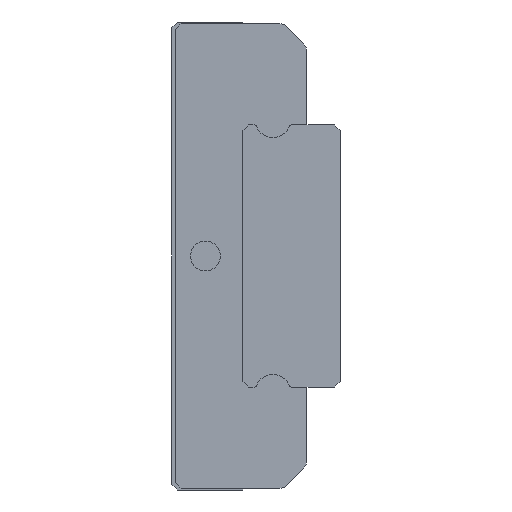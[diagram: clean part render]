
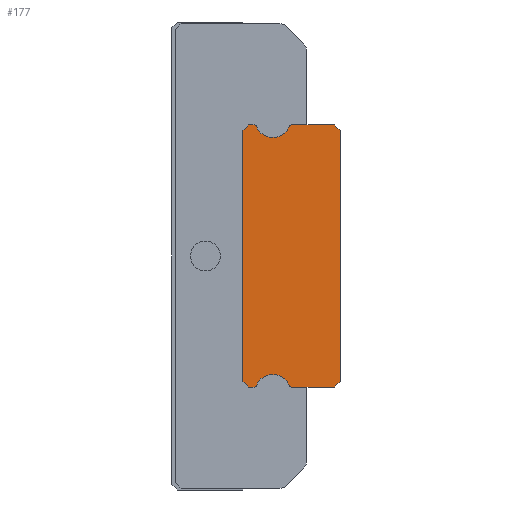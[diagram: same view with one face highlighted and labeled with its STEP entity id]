
A CAD part, left-side view. The second image highlights one B-rep face of the part: STEP entity #177.
In plain terms, the highlighted planar face has unit normal (-1, 0, 0).
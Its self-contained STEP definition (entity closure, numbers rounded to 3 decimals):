
#177 = ADVANCED_FACE( '', ( #402 ), #403, .F. );
#402 = FACE_OUTER_BOUND( '', #727, .T. );
#403 = PLANE( '', #728 );
#727 = EDGE_LOOP( '', ( #1343, #1344, #1345, #1346, #1347, #1348, #1349, #1350, #1351, #1352, #1353, #1354, #1355, #1356, #1357, #1358, #1359, #1360 ) );
#728 = AXIS2_PLACEMENT_3D( '', #1361, #1362, #1363 );
#1343 = ORIENTED_EDGE( '', *, *, #2275, .F. );
#1344 = ORIENTED_EDGE( '', *, *, #2224, .F. );
#1345 = ORIENTED_EDGE( '', *, *, #2228, .F. );
#1346 = ORIENTED_EDGE( '', *, *, #2231, .F. );
#1347 = ORIENTED_EDGE( '', *, *, #2234, .F. );
#1348 = ORIENTED_EDGE( '', *, *, #2237, .F. );
#1349 = ORIENTED_EDGE( '', *, *, #2240, .F. );
#1350 = ORIENTED_EDGE( '', *, *, #2243, .F. );
#1351 = ORIENTED_EDGE( '', *, *, #2246, .F. );
#1352 = ORIENTED_EDGE( '', *, *, #2249, .F. );
#1353 = ORIENTED_EDGE( '', *, *, #2252, .F. );
#1354 = ORIENTED_EDGE( '', *, *, #2255, .F. );
#1355 = ORIENTED_EDGE( '', *, *, #2258, .F. );
#1356 = ORIENTED_EDGE( '', *, *, #2261, .F. );
#1357 = ORIENTED_EDGE( '', *, *, #2264, .F. );
#1358 = ORIENTED_EDGE( '', *, *, #2267, .F. );
#1359 = ORIENTED_EDGE( '', *, *, #2270, .F. );
#1360 = ORIENTED_EDGE( '', *, *, #2273, .F. );
#1361 = CARTESIAN_POINT( '', ( -10., 0., 0. ) );
#1362 = DIRECTION( '', ( 1., 0., 0. ) );
#1363 = DIRECTION( '', ( 0., 0., -1. ) );
#2224 = EDGE_CURVE( '', #2665, #2667, #2668, .T. );
#2228 = EDGE_CURVE( '', #2672, #2665, #2674, .T. );
#2231 = EDGE_CURVE( '', #2677, #2672, #2679, .T. );
#2234 = EDGE_CURVE( '', #2682, #2677, #2684, .T. );
#2237 = EDGE_CURVE( '', #2687, #2682, #2689, .T. );
#2240 = EDGE_CURVE( '', #2692, #2687, #2694, .T. );
#2243 = EDGE_CURVE( '', #2697, #2692, #2699, .T. );
#2246 = EDGE_CURVE( '', #2702, #2697, #2704, .T. );
#2249 = EDGE_CURVE( '', #2707, #2702, #2709, .T. );
#2252 = EDGE_CURVE( '', #2712, #2707, #2714, .T. );
#2255 = EDGE_CURVE( '', #2717, #2712, #2719, .T. );
#2258 = EDGE_CURVE( '', #2722, #2717, #2724, .T. );
#2261 = EDGE_CURVE( '', #2727, #2722, #2729, .T. );
#2264 = EDGE_CURVE( '', #2732, #2727, #2734, .T. );
#2267 = EDGE_CURVE( '', #2737, #2732, #2739, .T. );
#2270 = EDGE_CURVE( '', #2742, #2737, #2744, .T. );
#2273 = EDGE_CURVE( '', #2747, #2742, #2749, .T. );
#2275 = EDGE_CURVE( '', #2667, #2747, #2751, .T. );
#2665 = VERTEX_POINT( '', #3330 );
#2667 = VERTEX_POINT( '', #3333 );
#2668 = LINE( '', #3334, #3335 );
#2672 = VERTEX_POINT( '', #3340 );
#2674 = CIRCLE( '', #3343, 0.15 );
#2677 = VERTEX_POINT( '', #3346 );
#2679 = CIRCLE( '', #3349, 0.87 );
#2682 = VERTEX_POINT( '', #3352 );
#2684 = CIRCLE( '', #3355, 0.87 );
#2687 = VERTEX_POINT( '', #3358 );
#2689 = CIRCLE( '', #3361, 0.15 );
#2692 = VERTEX_POINT( '', #3365 );
#2694 = LINE( '', #3368, #3369 );
#2697 = VERTEX_POINT( '', #3373 );
#2699 = LINE( '', #3376, #3377 );
#2702 = VERTEX_POINT( '', #3381 );
#2704 = LINE( '', #3384, #3385 );
#2707 = VERTEX_POINT( '', #3389 );
#2709 = LINE( '', #3392, #3393 );
#2712 = VERTEX_POINT( '', #3397 );
#2714 = LINE( '', #3400, #3401 );
#2717 = VERTEX_POINT( '', #3404 );
#2719 = CIRCLE( '', #3407, 0.15 );
#2722 = VERTEX_POINT( '', #3410 );
#2724 = CIRCLE( '', #3413, 0.87 );
#2727 = VERTEX_POINT( '', #3416 );
#2729 = CIRCLE( '', #3419, 0.87 );
#2732 = VERTEX_POINT( '', #3422 );
#2734 = CIRCLE( '', #3425, 0.15 );
#2737 = VERTEX_POINT( '', #3429 );
#2739 = LINE( '', #3432, #3433 );
#2742 = VERTEX_POINT( '', #3437 );
#2744 = LINE( '', #3440, #3441 );
#2747 = VERTEX_POINT( '', #3445 );
#2749 = LINE( '', #3448, #3449 );
#2751 = LINE( '', #3452, #3453 );
#3330 = CARTESIAN_POINT( '', ( -10., 2.596, 7. ) );
#3333 = CARTESIAN_POINT( '', ( -10., 0.3, 7. ) );
#3334 = CARTESIAN_POINT( '', ( -10., 2.596, 7. ) );
#3335 = VECTOR( '', #4240, 1. );
#3340 = CARTESIAN_POINT( '', ( -10., 2.736, 6.903 ) );
#3343 = AXIS2_PLACEMENT_3D( '', #4246, #4247, #4248 );
#3346 = CARTESIAN_POINT( '', ( -10., 3.6, 6.341 ) );
#3349 = AXIS2_PLACEMENT_3D( '', #4253, #4254, #4255 );
#3352 = CARTESIAN_POINT( '', ( -10., 4.464, 6.903 ) );
#3355 = AXIS2_PLACEMENT_3D( '', #4260, #4261, #4262 );
#3358 = CARTESIAN_POINT( '', ( -10., 4.604, 7. ) );
#3361 = AXIS2_PLACEMENT_3D( '', #4267, #4268, #4269 );
#3365 = CARTESIAN_POINT( '', ( -10., 4.9, 7. ) );
#3368 = CARTESIAN_POINT( '', ( -10., 4.9, 7. ) );
#3369 = VECTOR( '', #4272, 1. );
#3373 = CARTESIAN_POINT( '', ( -10., 5.2, 6.7 ) );
#3376 = CARTESIAN_POINT( '', ( -10., 5.2, 6.7 ) );
#3377 = VECTOR( '', #4275, 1. );
#3381 = CARTESIAN_POINT( '', ( -10., 5.2, -6.7 ) );
#3384 = CARTESIAN_POINT( '', ( -10., 5.2, -6.7 ) );
#3385 = VECTOR( '', #4278, 1. );
#3389 = CARTESIAN_POINT( '', ( -10., 4.9, -7. ) );
#3392 = CARTESIAN_POINT( '', ( -10., 4.9, -7. ) );
#3393 = VECTOR( '', #4281, 1. );
#3397 = CARTESIAN_POINT( '', ( -10., 4.604, -7. ) );
#3400 = CARTESIAN_POINT( '', ( -10., 4.604, -7. ) );
#3401 = VECTOR( '', #4284, 1. );
#3404 = CARTESIAN_POINT( '', ( -10., 4.464, -6.903 ) );
#3407 = AXIS2_PLACEMENT_3D( '', #4289, #4290, #4291 );
#3410 = CARTESIAN_POINT( '', ( -10., 3.6, -6.341 ) );
#3413 = AXIS2_PLACEMENT_3D( '', #4296, #4297, #4298 );
#3416 = CARTESIAN_POINT( '', ( -10., 2.736, -6.903 ) );
#3419 = AXIS2_PLACEMENT_3D( '', #4303, #4304, #4305 );
#3422 = CARTESIAN_POINT( '', ( -10., 2.596, -7. ) );
#3425 = AXIS2_PLACEMENT_3D( '', #4310, #4311, #4312 );
#3429 = CARTESIAN_POINT( '', ( -10., 0.3, -7. ) );
#3432 = CARTESIAN_POINT( '', ( -10., 0.3, -7. ) );
#3433 = VECTOR( '', #4315, 1. );
#3437 = CARTESIAN_POINT( '', ( -10., 0., -6.7 ) );
#3440 = CARTESIAN_POINT( '', ( -10., 0., -6.7 ) );
#3441 = VECTOR( '', #4318, 1. );
#3445 = CARTESIAN_POINT( '', ( -10., 0., 6.7 ) );
#3448 = CARTESIAN_POINT( '', ( -10., 0., 6.7 ) );
#3449 = VECTOR( '', #4321, 1. );
#3452 = CARTESIAN_POINT( '', ( -10., 0.3, 7. ) );
#3453 = VECTOR( '', #4323, 1. );
#4240 = DIRECTION( '', ( 0., -1., 0. ) );
#4246 = CARTESIAN_POINT( '', ( -10., 2.596, 6.85 ) );
#4247 = DIRECTION( '', ( 1., 0., 0. ) );
#4248 = DIRECTION( '', ( 0., 0.936, 0.353 ) );
#4253 = CARTESIAN_POINT( '', ( -10., 3.55, 7.21 ) );
#4254 = DIRECTION( '', ( -1., 0., 0. ) );
#4255 = DIRECTION( '', ( 0., 0.057, -0.998 ) );
#4260 = CARTESIAN_POINT( '', ( -10., 3.65, 7.21 ) );
#4261 = DIRECTION( '', ( -1., 0., 0. ) );
#4262 = DIRECTION( '', ( 0., 0.936, -0.353 ) );
#4267 = CARTESIAN_POINT( '', ( -10., 4.604, 6.85 ) );
#4268 = DIRECTION( '', ( 1., 0., 0. ) );
#4269 = DIRECTION( '', ( 0., 0., 1. ) );
#4272 = DIRECTION( '', ( 0., -1., 0. ) );
#4275 = DIRECTION( '', ( 0., -0.707, 0.707 ) );
#4278 = DIRECTION( '', ( 0., 0., 1. ) );
#4281 = DIRECTION( '', ( 0., 0.707, 0.707 ) );
#4284 = DIRECTION( '', ( 0., 1., 0. ) );
#4289 = CARTESIAN_POINT( '', ( -10., 4.604, -6.85 ) );
#4290 = DIRECTION( '', ( 1., 0., 0. ) );
#4291 = DIRECTION( '', ( 0., -0.936, -0.353 ) );
#4296 = CARTESIAN_POINT( '', ( -10., 3.65, -7.21 ) );
#4297 = DIRECTION( '', ( -1., 0., 0. ) );
#4298 = DIRECTION( '', ( 0., -0.057, 0.998 ) );
#4303 = CARTESIAN_POINT( '', ( -10., 3.55, -7.21 ) );
#4304 = DIRECTION( '', ( -1., 0., 0. ) );
#4305 = DIRECTION( '', ( 0., -0.936, 0.353 ) );
#4310 = CARTESIAN_POINT( '', ( -10., 2.596, -6.85 ) );
#4311 = DIRECTION( '', ( 1., 0., 0. ) );
#4312 = DIRECTION( '', ( 0., 0., -1. ) );
#4315 = DIRECTION( '', ( 0., 1., 0. ) );
#4318 = DIRECTION( '', ( 0., 0.707, -0.707 ) );
#4321 = DIRECTION( '', ( 0., 0., -1. ) );
#4323 = DIRECTION( '', ( 0., -0.707, -0.707 ) );
